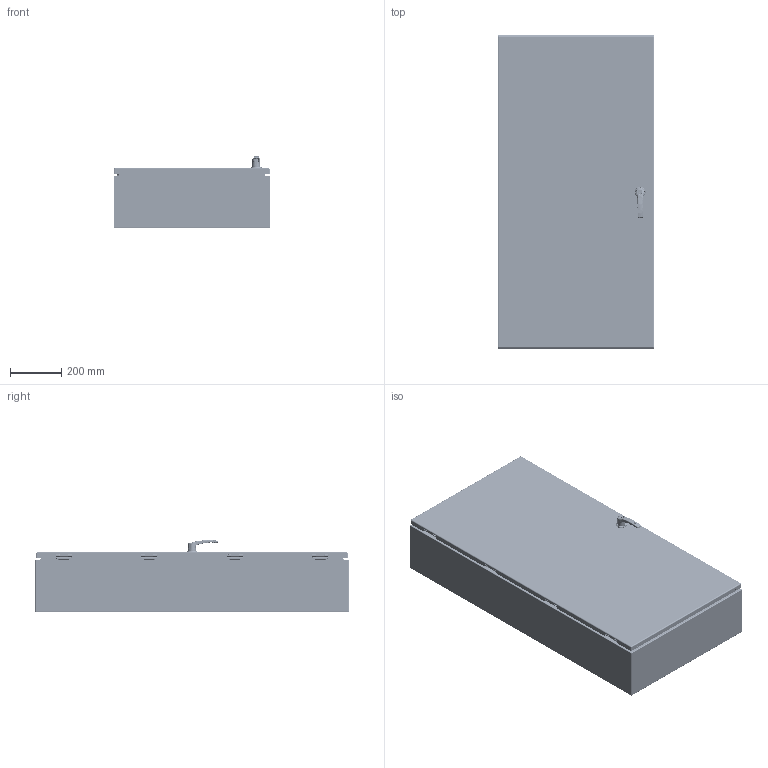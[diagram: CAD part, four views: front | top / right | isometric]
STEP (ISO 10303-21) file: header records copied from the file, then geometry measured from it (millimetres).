
FILE_DESCRIPTION(/* description */ ('5412ES 48" x 24" x 8" Assembly'),/* implementation_level */ '2;1');
FILE_NAME(/* name */ 'C:\Vault_Workspace\Inventor_Dwg\BoxCad\Result\5412ESB482408\e-mail\3D\5412ESB482408.stp',/* time_stamp */ '2022-03-23T11:33:38-04:00',/* author */ ('BoxCad'),/* organization */ (''),/* preprocessor_version */ 'ST-DEVELOPER v18.1',/* originating_system */ 'Autodesk Inventor 2020',/* authorisation */ '');
FILE_SCHEMA (('AUTOMOTIVE_DESIGN { 1 0 10303 214 3 1 1 }'));
Products named in the file (53): 5412ESB482408; 5412ESB482408B; 5412ESB482408B-P; STK-Q-16005; STUD_M6 x 16mm; STK-Q-07610; 881SP4824G; 881SP4824G-P; STK-Q-07310; 5412ESB482408C; 5412ESB482408C-P; 5412ESB482408G; STK-K-09800; STK-K-09800-2; STK-K-09800-3; STK-K-09800-4; STK-Q-33014; STK-Q-90398; STK-Q-40095; STK-Q-63410; STK-Q-16055; STK-Q-16405; STK-Q-46020-48; STK-Q-07220-1; STK-Q-07220-2; STK-Q-07220-3; STK-Q-07220-4; STK-Q-07220-5; STK-Q-07220-6; STK-Q-07220-A; STK-Q-07220-B; STK-P-03820R; STK-S-00100; STK-A-885ESL2A-L-1; STK-Q-78210; STK-Q-78215; STK-Q-78220-K; STK-Q-78230; STK-Q-78240; STK-Q-03200-NT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
Assembly tree (113 placements, depth 4):
  5412ESB482408
    5412ESB482408B
      5412ESB482408B-P
      STK-Q-16005  x6
      STK-P-03820R
      STUD_M6 x 16mm
    STK-Q-07610  x6
    881SP4824G
      881SP4824G-P
    STK-Q-07310  x6
    5412ESB482408C
      5412ESB482408C-P
      5412ESB482408G
      STK-K-09800
        STK-Q-33014
        STK-Q-90398
        STK-Q-40095  x2
        STK-Q-63410  x2
      STK-K-09800-2
        STK-Q-33014
        STK-Q-90398
        STK-Q-40095  x2
        STK-Q-63410  x2
      STK-K-09800-3
        STK-Q-33014
        STK-Q-90398
        STK-Q-40095  x2
        STK-Q-63410  x2
      STK-K-09800-4
        STK-Q-33014
        STK-Q-90398
        STK-Q-40095  x2
        STK-Q-63410  x2
      STK-Q-16055  x6
      STK-Q-16405  x2
      STK-Q-46020-48  x2
      STK-Q-07220-1
        STK-Q-07220-A
        STK-Q-07220-B
      STK-Q-07220-2
        STK-Q-07220-A
        STK-Q-07220-B
      STK-Q-07220-3
        STK-Q-07220-A
        STK-Q-07220-B
      STK-Q-07220-4
        STK-Q-07220-A
        STK-Q-07220-B
      STK-Q-07220-5
        STK-Q-07220-A
        STK-Q-07220-B
      STK-Q-07220-6
        STK-Q-07220-A
        STK-Q-07220-B
      STK-P-03820R
      STK-S-00100
      STK-A-885ESL2A-L-1
        STK-Q-78210
        STK-Q-78215
        STK-Q-78220-K
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Bounding box: 609.67 x 1219.2 x 279.79 mm (x, y, z)
Volume: 5921212 mm3; surface area: 6802684.2 mm2
Topology: 91 solids, 91 shells, 14647 faces, 39073 edges, 24782 vertices
Faces by surface type: bspline 5133, cylinder 4109, plane 3640, torus 1254, sphere 266, cone 245
Full cylindrical faces by diameter (mm): 0 x1, 0.75 x15, 0.762 x15, 1 x16, 1.1 x16, 1.581 x1, 2.459 x1, 3.2 x8, 4.191 x88, 4.2 x2, 4.5 x6, 4.521 x16, 4.75 x4, 4.85 x32, 4.95 x8, 5 x6, 5.1 x23, 5.11 x1, 5.156 x4, 5.6 x4, 5.9 x28, 6.015 x88, 6.65 x6, 6.8 x6, 6.85 x24, 7.3 x4, 7.366 x4, 7.5 x2, 7.9 x14, 8 x18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
Entity records: 194634 total; most frequent: CARTESIAN_POINT 73687, ORIENTED_EDGE 27062, DIRECTION 21188, EDGE_CURVE 13531, VERTEX_POINT 8554, AXIS2_PLACEMENT_3D 7913, EDGE_LOOP 5699, LINE 5362
